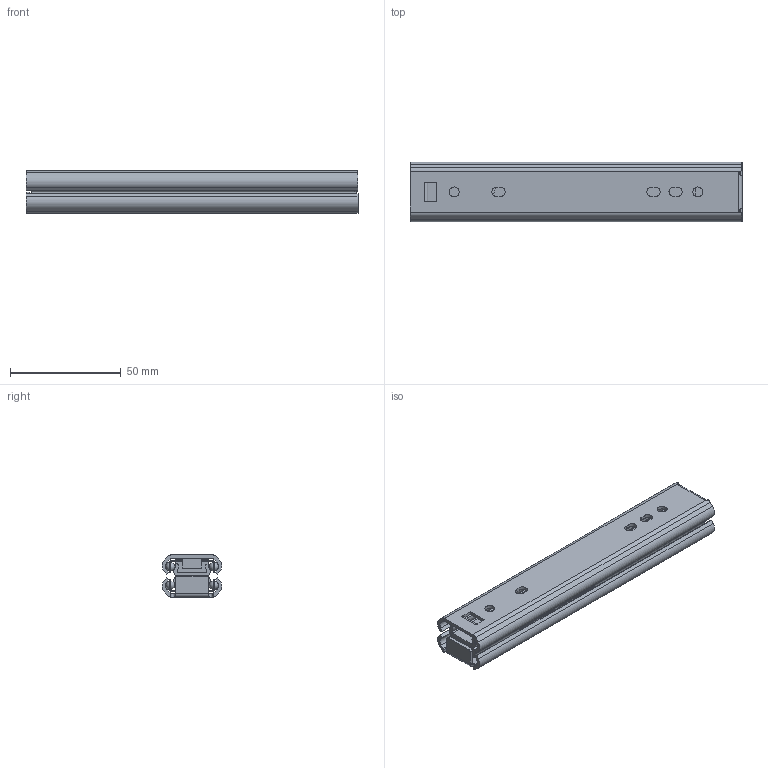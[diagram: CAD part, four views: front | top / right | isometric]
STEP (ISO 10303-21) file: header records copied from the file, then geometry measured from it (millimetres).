
FILE_DESCRIPTION(/* description */ (''),/* implementation_level */ '2;1');
FILE_NAME(/* name */ '\\NAS\db20\L7-150\DR_L7-150.stp',/* time_stamp */ '2017-09-29T08:30:45+09:00',/* author */ ('user'),/* organization */ (''),/* preprocessor_version */ 'ST-DEVELOPER v15.6',/* originating_system */ 'Autodesk Inventor 2015',/* authorisation */ '');
FILE_SCHEMA (('AUTOMOTIVE_DESIGN { 1 0 10303 214 3 1 1 }'));
Length unit declared in the file: millimetre
Products named in the file (4): DR_L7-150-B; DR_L7-150-P1; DR_L7-150-P2; DR_L7-150
Bounding box: 150 x 27 x 19.08 mm (x, y, z)
Volume: 28133.5 mm3; surface area: 44406.1 mm2
Topology: 6 solids, 6 shells, 302 faces, 850 edges, 560 vertices
Faces by surface type: plane 144, cylinder 122, sphere 32, bspline 4
Full cylindrical faces by diameter (mm): 4.5 x4, 5 x4
Entity records: 5172 total; most frequent: CARTESIAN_POINT 1040, DIRECTION 855, ORIENTED_EDGE 842, EDGE_CURVE 421, AXIS2_PLACEMENT_3D 299, VERTEX_POINT 280, LINE 257, VECTOR 257
